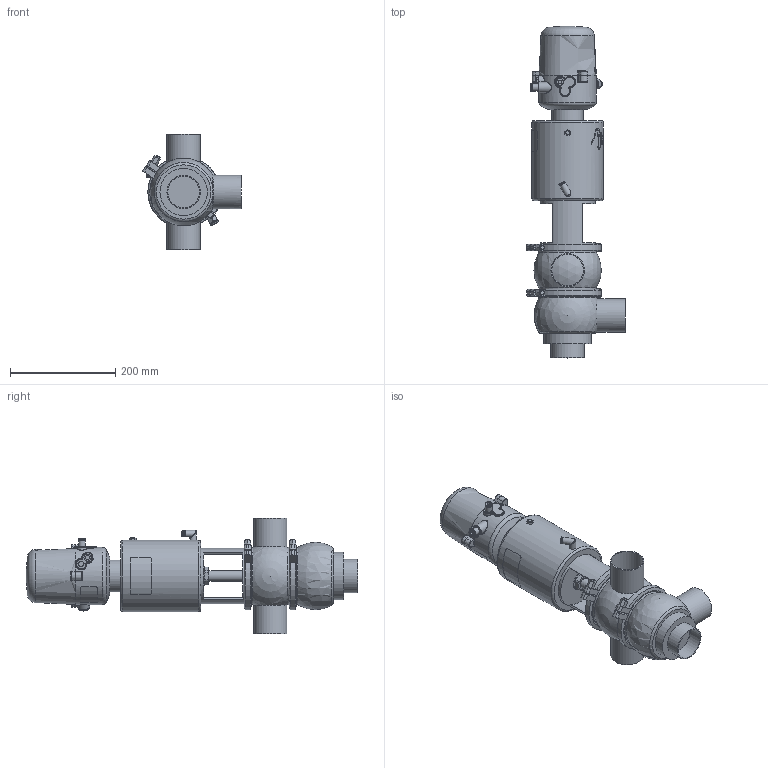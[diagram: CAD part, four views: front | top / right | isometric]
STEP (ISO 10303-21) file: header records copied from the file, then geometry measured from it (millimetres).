
FILE_DESCRIPTION (( 'STEP AP214' ), '1' );
FILE_NAME ('INNOVA K E W OD 2½ T3 AS NC & C-TOP S_10.240.16.0076.STEP', '2024-08-06T09:18:55', ( '' ), ( '' ), 'SwSTEP 2.0', 'SolidWorks 2023', '' );
FILE_SCHEMA (( 'AUTOMOTIVE_DESIGN' ));
Length unit declared in the file: millimetre
Products named in the file (8): 10.240.15.0014_T3 AS P0; 10.240.15.0002_OD 2½"; 10.240.15.0017_Estàndard; 10.240.15.0010_DN 065; 10.240.15.0007_OD 2½"; INNOVA K E W OD 2½ T3 AS NC & C-TOP S_10.240.16.0076; 10.240.15.0001_DN 065; 10.426.15.0001_C-TOP S - 1 EV
Assembly tree (8 placements, depth 2):
  INNOVA K E W OD 2½ T3 AS NC & C-TOP S_10.240.16.0076
    10.240.15.0007_OD 2½"
    10.240.15.0002_OD 2½"
    10.240.15.0010_DN 065
    10.240.15.0014_T3 AS P0
    10.240.15.0017_Estàndard
    10.426.15.0001_C-TOP S - 1 EV
    10.240.15.0001_DN 065  x2
Bounding box: 188.15 x 631.5 x 220 mm (x, y, z)
Volume: 5976735.2 mm3; surface area: 486017.3 mm2
Topology: 8 solids, 8 shells, 1176 faces, 2842 edges, 1893 vertices
Faces by surface type: plane 411, cylinder 358, cone 201, bspline 160, torus 37, sphere 9
Full cylindrical faces by diameter (mm): 0.371 x17, 0.512 x16, 0.658 x16, 0.795 x16, 0.94 x15, 1.098 x15, 1.241 x13, 1.382 x13, 1.523 x11, 1.669 x10, 2.201 x1, 4 x2, 5.5 x2, 6 x2, 6.15 x1, 8 x6, 8.5 x1, 10 x1, 10.5 x1, 11 x2, 12.5 x3, 13 x2, 13.5 x2, 16 x1, 17 x3, 20 x3, 20.5 x1, 22 x2, 31 x1, 34.5 x3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
Entity records: 58129 total; most frequent: CARTESIAN_POINT 27864, ORIENTED_EDGE 4518, DIRECTION 3663, EDGE_CURVE 2259, VERTEX_POINT 1609, EDGE_LOOP 1578, AXIS2_PLACEMENT_3D 1503, FACE_OUTER_BOUND 1337
